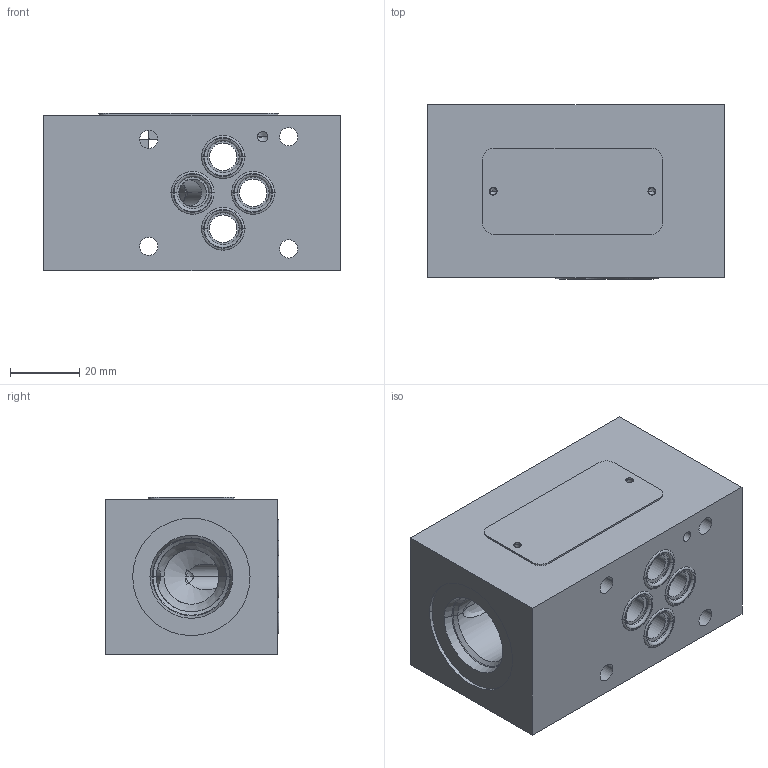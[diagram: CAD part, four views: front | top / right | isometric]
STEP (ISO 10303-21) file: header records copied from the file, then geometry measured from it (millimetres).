
FILE_DESCRIPTION((''),'2;1');
FILE_NAME('1000152814_ASM','2023-10-12T',('l.soukupova'),(''),'PRO/ENGINEER BY PARAMETRIC TECHNOLOGY CORPORATION, 2015440','PRO/ENGINEER BY PARAMETRIC TECHNOLOGY CORPORATION, 2015440','');
FILE_SCHEMA(('AUTOMOTIVE_DESIGN { 1 0 10303 214 1 1 1 1 }'));
Length unit declared in the file: millimetre
Products named in the file (4): 32067800; RD_LABEL_25X52_159703; ORAR00012_201524; 1000152814_ASM
Assembly tree (6 placements, depth 2):
  1000152814_ASM
    32067800
    RD_LABEL_25X52_159703
    ORAR00012_201524  x4
Bounding box: 86 x 50.38 x 45.5 mm (x, y, z)
Volume: 167892.8 mm3; surface area: 35364.1 mm2
Topology: 6 solids, 9 shells, 151 faces, 474 edges, 405 vertices
Faces by surface type: cylinder 70, torus 32, plane 29, cone 20
Entity records: 6873 total; most frequent: CARTESIAN_POINT 1364, DIRECTION 807, ORIENTED_EDGE 510, PRESENTATION_STYLE_ASSIGNMENT 472, STYLED_ITEM 424, CURVE_STYLE 419, AXIS2_PLACEMENT_3D 307, EDGE_CURVE 261
